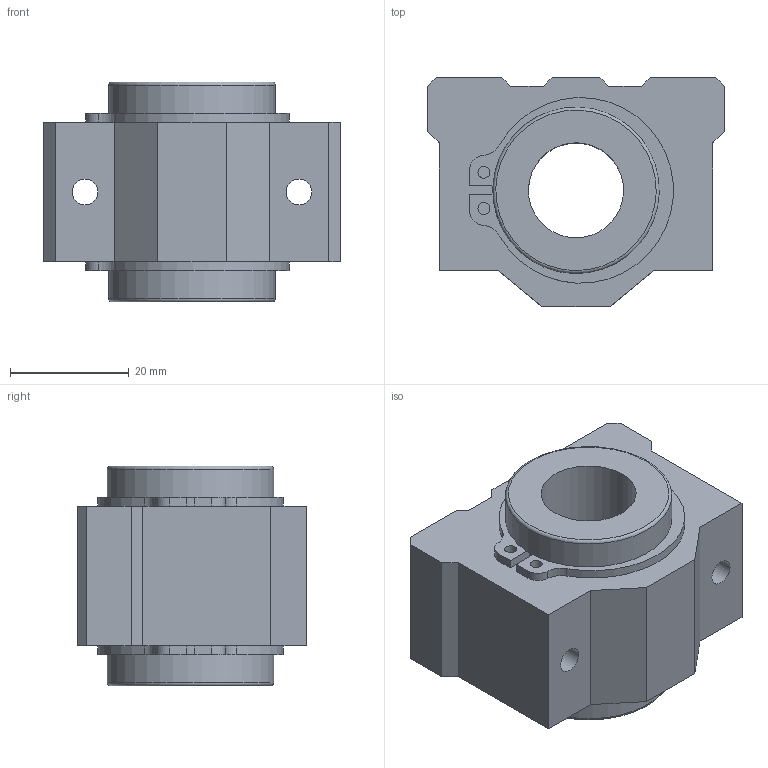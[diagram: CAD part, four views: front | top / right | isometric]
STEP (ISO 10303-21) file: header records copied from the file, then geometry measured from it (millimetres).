
FILE_DESCRIPTION(('STEP AP203'),'1');
FILE_NAME('//192.168.1.1/share/s-4 技術開発/s-4-4_CAD/s-4-4-3_見直し済み/008 修正済み/LC-C/LC-C_TOP/LC-16VCUU.step','2022-05-19T01:27:17',(' '),(' '),'Spatial InterOp 3D',' ',' ');
FILE_SCHEMA(('CONFIG_CONTROL_DESIGN'));
Length unit declared in the file: millimetre
Products named in the file (4): 1; 2; 3; 4
Bounding box: 50 x 38.5 x 37 mm (x, y, z)
Volume: 38663.8 mm3; surface area: 16480.3 mm2
Topology: 4 solids, 4 shells, 71 faces, 176 edges, 117 vertices
Faces by surface type: plane 42, cylinder 27, torus 2
Full cylindrical faces by diameter (mm): 2 x4, 4.3 x4, 16 x1, 27 x2, 28 x4
Entity records: 2212 total; most frequent: DIRECTION 360, CARTESIAN_POINT 345, ORIENTED_EDGE 312, EDGE_CURVE 156, AXIS2_PLACEMENT_3D 129, VERTEX_POINT 114, EDGE_LOOP 108, LINE 102
